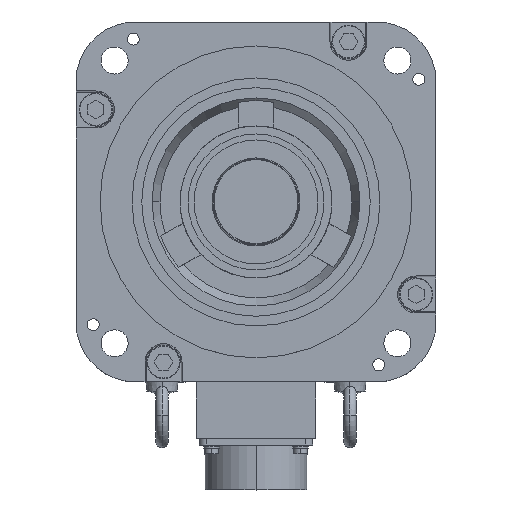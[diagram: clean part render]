
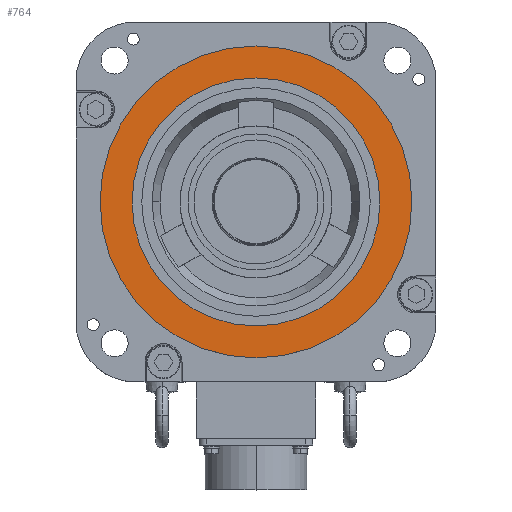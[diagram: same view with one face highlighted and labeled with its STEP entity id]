
A CAD part, top view. The second image highlights one B-rep face of the part: STEP entity #764.
In plain terms, the highlighted planar face has unit normal (0, 0, 1).
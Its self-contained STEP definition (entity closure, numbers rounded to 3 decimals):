
#483 = ORIENTED_EDGE ( 'NONE', *, *, #738, .T. ) ;
#507 = EDGE_LOOP ( 'NONE', ( #483, #714 ) ) ;
#686 = ORIENTED_EDGE ( 'NONE', *, *, #12413, .F. ) ;
#714 = ORIENTED_EDGE ( 'NONE', *, *, #1126, .T. ) ;
#716 = EDGE_LOOP ( 'NONE', ( #717, #686 ) ) ;
#717 = ORIENTED_EDGE ( 'NONE', *, *, #726, .F. ) ;
#726 = EDGE_CURVE ( 'NONE', #12254, #12416, #29763, .T. ) ;
#738 = EDGE_CURVE ( 'NONE', #1372, #1373, #29809, .T. ) ;
#764 = ADVANCED_FACE ( 'NONE', ( #29823, #29822 ), #29820, .T. ) ;
#1126 = EDGE_CURVE ( 'NONE', #1373, #1372, #30478, .T. ) ;
#1372 = VERTEX_POINT ( 'NONE', #30985 ) ;
#1373 = VERTEX_POINT ( 'NONE', #30984 ) ;
#8160 = CARTESIAN_POINT ( 'NONE',  ( -62., 0., -0.5 ) ) ;
#8624 = CARTESIAN_POINT ( 'NONE',  ( 62., 0., -0.5 ) ) ;
#8625 = DIRECTION ( 'NONE',  ( 1., 0., 0. ) ) ;
#8626 = DIRECTION ( 'NONE',  ( 0., 0., 1. ) ) ;
#8627 = CARTESIAN_POINT ( 'NONE',  ( 0., 0., -0.5 ) ) ;
#8629 = AXIS2_PLACEMENT_3D ( 'NONE', #8627, #8626, #8625 ) ;
#8630 = CIRCLE ( 'NONE', #8629, 62. ) ;
#12254 = VERTEX_POINT ( 'NONE', #8160 ) ;
#12413 = EDGE_CURVE ( 'NONE', #12416, #12254, #8630, .T. ) ;
#12416 = VERTEX_POINT ( 'NONE', #8624 ) ;
#29759 = DIRECTION ( 'NONE',  ( 1., 0., 0. ) ) ;
#29760 = DIRECTION ( 'NONE',  ( 0., 0., 1. ) ) ;
#29761 = CARTESIAN_POINT ( 'NONE',  ( 0., 0., -0.5 ) ) ;
#29762 = AXIS2_PLACEMENT_3D ( 'NONE', #29761, #29760, #29759 ) ;
#29763 = CIRCLE ( 'NONE', #29762, 62. ) ;
#29805 = DIRECTION ( 'NONE',  ( 1., 0., 0. ) ) ;
#29806 = DIRECTION ( 'NONE',  ( 0., 0., 1. ) ) ;
#29807 = CARTESIAN_POINT ( 'NONE',  ( 0., 0., -0.5 ) ) ;
#29808 = AXIS2_PLACEMENT_3D ( 'NONE', #29807, #29806, #29805 ) ;
#29809 = CIRCLE ( 'NONE', #29808, 78. ) ;
#29820 = PLANE ( 'NONE',  #29892 ) ;
#29822 = FACE_BOUND ( 'NONE', #716, .T. ) ;
#29823 = FACE_OUTER_BOUND ( 'NONE', #507, .T. ) ;
#29888 = DIRECTION ( 'NONE',  ( 1., 0., 0. ) ) ;
#29890 = DIRECTION ( 'NONE',  ( 0., 0., 1. ) ) ;
#29891 = CARTESIAN_POINT ( 'NONE',  ( 0., 0., -0.5 ) ) ;
#29892 = AXIS2_PLACEMENT_3D ( 'NONE', #29891, #29890, #29888 ) ;
#30469 = DIRECTION ( 'NONE',  ( 1., 0., 0. ) ) ;
#30470 = DIRECTION ( 'NONE',  ( 0., 0., 1. ) ) ;
#30471 = CARTESIAN_POINT ( 'NONE',  ( 0., 0., -0.5 ) ) ;
#30472 = AXIS2_PLACEMENT_3D ( 'NONE', #30471, #30470, #30469 ) ;
#30478 = CIRCLE ( 'NONE', #30472, 78. ) ;
#30984 = CARTESIAN_POINT ( 'NONE',  ( -78., 0., -0.5 ) ) ;
#30985 = CARTESIAN_POINT ( 'NONE',  ( 78., 0., -0.5 ) ) ;
